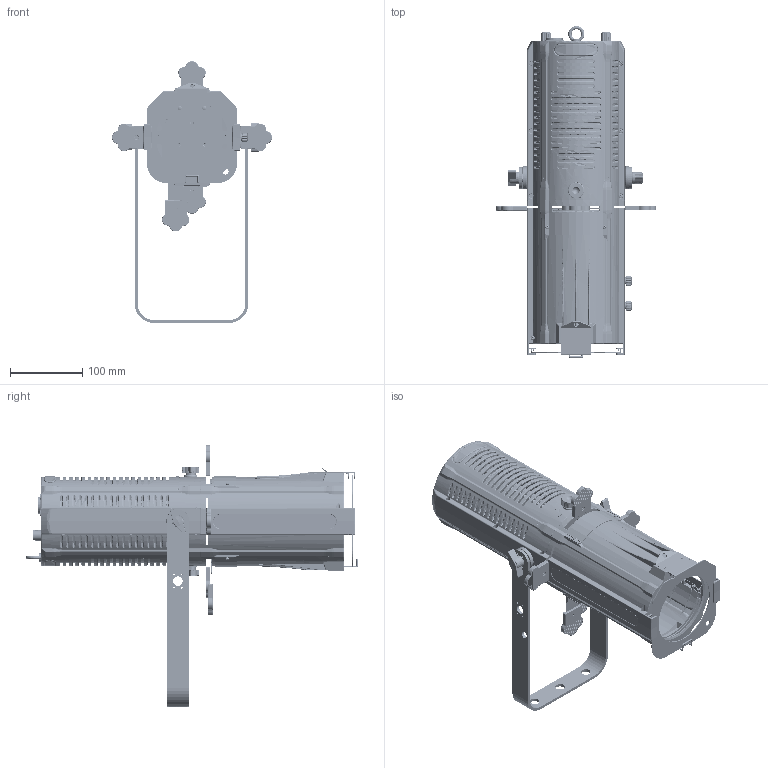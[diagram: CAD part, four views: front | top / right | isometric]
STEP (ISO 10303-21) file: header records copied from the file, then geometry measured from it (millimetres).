
FILE_DESCRIPTION((''),'2;1');
FILE_NAME('EVENT-100T-C-PROFILE_ASM','2025-03-29T09:38:33',('ALY'),(''),'CREO PARAMETRIC BY PTC INC, 2022164','CREO PARAMETRIC BY PTC INC, 2022164','');
FILE_SCHEMA(('AUTOMOTIVE_DESIGN { 1 0 10303 214 1 1 1 1 }'));
Products named in the file (65): 100W00_1_ASM; 00_1-496940; 40001_1_2; 40001_1_3; 40001_1_4; 40001_1_5; 40001_1_ASM; 200_1-536492; 00_1-538247; 0017_1; 0020_1; HGB100W00_1_1; HGB100W00_1_2; HGB100W00_1_3; HGB100W00_1_4; HGB100W00_1_5; HGB100W00_1_6; HGB100W00_1_7; HGB100W00_1_8; HGB100W00_1_9; HGB100W00_1_10; HGB100W00_1_11; HGB100W00_1_ASM; SAC3MPX_1__1; 1_1; 2_1; M6X150001_1; 100_1; 200_1-615484; 00_1-619264; 0022_1; 20004_1; 10003_1; M6X20T0001_1; A00_1; 0024_1; B00_1; LD-A_1; M3X6-0001_1; M3-0001_1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
Assembly tree (107 placements, depth 4):
  EVENT-100T-C-PROFILE_ASM
    100W0001_ASM_1_ASM
      100W00_1_ASM
      00_1-496940  x2
      40001_1_ASM
        40001_1_2
        40001_1_3
        40001_1_4
        40001_1_5
      200_1-536492  x2
      00_1-538247  x2
      0017_1  x4
      0020_1  x2
      HGB100W00_1_ASM
        HGB100W00_1_1
        HGB100W00_1_2
        HGB100W00_1_3
        HGB100W00_1_4
        HGB100W00_1_5
        HGB100W00_1_6
        HGB100W00_1_7
        HGB100W00_1_8
        HGB100W00_1_9
        HGB100W00_1_10
        HGB100W00_1_11
      SAC3MPX_1__1
      1_1
      2_1
      M6X150001_1  x2
      100_1  x2
      200_1-615484  x2
      00_1-619264
      0022_1  x2
      20004_1
      10003_1
      M6X20T0001_1  x2
      002_ASM_1_ASM
        A00_1
        0024_1
        B00_1
        LD-A_1  x2
        0017_1
        M3X6-0001_1
        M3-0001_1
        D37-5000_1
      002_1
      M6X100001_1  x2
      00_1-771601  x2
      0027_1
      M50001_1
      _AF6_1
      M3X6-0001_1  x4
      M4X10-0001_1  x6
      M3X120001_1
      M3X8-0002_1  x8
      M3X8-0001_1  x2
      M4X8-0001_1
      M3X5-0002_1  x4
      0029_1
      M3X5-0001_1  x2
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Bounding box: 221.33 x 459.75 x 362.21 mm (x, y, z)
Volume: 765592.9 mm3; surface area: 777016.9 mm2
Topology: 102 solids, 111 shells, 14482 faces, 39926 edges, 25485 vertices
Faces by surface type: plane 6477, cylinder 3892, bspline 1805, cone 1140, torus 796, sphere 178, extrusion 174, revolution 20
Entity records: 430374 total; most frequent: CARTESIAN_POINT 171769, ORIENTED_EDGE 42332, DIRECTION 33518, EDGE_CURVE 21166, PRESENTATION_STYLE_ASSIGNMENT 18014, STYLED_ITEM 17844, CURVE_STYLE 15917, VERTEX_POINT 13636
